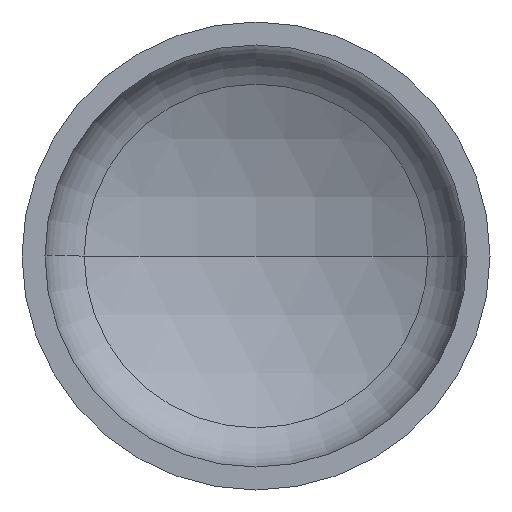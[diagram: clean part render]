
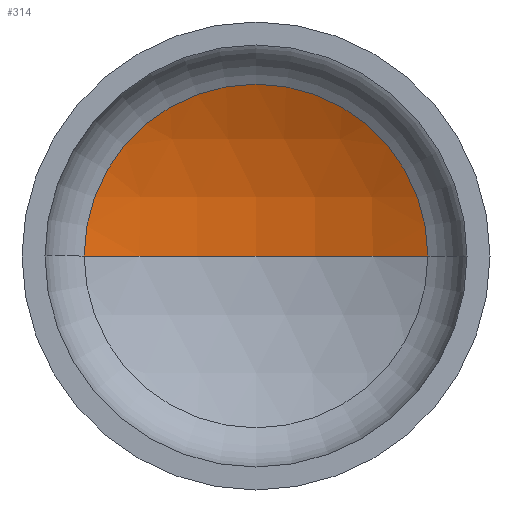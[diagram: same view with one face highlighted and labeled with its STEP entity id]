
A CAD part, front view. The second image highlights one B-rep face of the part: STEP entity #314.
In plain terms, the highlighted spherical face has radius 1600 mm.
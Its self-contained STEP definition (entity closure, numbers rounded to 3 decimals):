
#2 = DIRECTION ( 'NONE',  ( 0., 0., -1. ) ) ;
#4 = ORIENTED_EDGE ( 'NONE', *, *, #116, .T. ) ;
#6 = DIRECTION ( 'NONE',  ( 0., 0., 1. ) ) ;
#9 = EDGE_LOOP ( 'NONE', ( #39, #4, #128 ) ) ;
#11 = CARTESIAN_POINT ( 'NONE',  ( 0., -1046.14, 0. ) ) ;
#39 = ORIENTED_EDGE ( 'NONE', *, *, #117, .F. ) ;
#40 = AXIS2_PLACEMENT_3D ( 'NONE', #392, #398, #134 ) ;
#44 = AXIS2_PLACEMENT_3D ( 'NONE', #11, #6, #244 ) ;
#45 = VERTEX_POINT ( 'NONE', #300 ) ;
#46 = AXIS2_PLACEMENT_3D ( 'NONE', #147, #2, #214 ) ;
#49 = AXIS2_PLACEMENT_3D ( 'NONE', #187, #188, #192 ) ;
#62 = CIRCLE ( 'NONE', #49, 734.264 ) ;
#71 = VERTEX_POINT ( 'NONE', #289 ) ;
#106 = VERTEX_POINT ( 'NONE', #140 ) ;
#115 = EDGE_CURVE ( 'NONE', #71, #45, #62, .T. ) ;
#116 = EDGE_CURVE ( 'NONE', #106, #71, #370, .T. ) ;
#117 = EDGE_CURVE ( 'NONE', #106, #45, #304, .T. ) ;
#128 = ORIENTED_EDGE ( 'NONE', *, *, #115, .T. ) ;
#134 = DIRECTION ( 'NONE',  ( -1., 0., 0. ) ) ;
#140 = CARTESIAN_POINT ( 'NONE',  ( 0., 553.86, 0. ) ) ;
#147 = CARTESIAN_POINT ( 'NONE',  ( 0., -1046.14, 0. ) ) ;
#187 = CARTESIAN_POINT ( 'NONE',  ( 0., 375.429, 0. ) ) ;
#188 = DIRECTION ( 'NONE',  ( 0., -1., 0. ) ) ;
#192 = DIRECTION ( 'NONE',  ( 1., 0., 0. ) ) ;
#214 = DIRECTION ( 'NONE',  ( -1., 0., 0. ) ) ;
#224 = FACE_OUTER_BOUND ( 'NONE', #9, .T. ) ;
#244 = DIRECTION ( 'NONE',  ( 1., 0., 0. ) ) ;
#289 = CARTESIAN_POINT ( 'NONE',  ( 734.264, 375.429, 0. ) ) ;
#293 = SPHERICAL_SURFACE ( 'NONE', #40, 1600. ) ;
#300 = CARTESIAN_POINT ( 'NONE',  ( -734.264, 375.429, 0. ) ) ;
#304 = CIRCLE ( 'NONE', #44, 1600. ) ;
#314 = ADVANCED_FACE ( 'NONE', ( #224 ), #293, .F. ) ;
#370 = CIRCLE ( 'NONE', #46, 1600. ) ;
#392 = CARTESIAN_POINT ( 'NONE',  ( 0., -1046.14, 0. ) ) ;
#398 = DIRECTION ( 'NONE',  ( 0., 0., -1. ) ) ;
